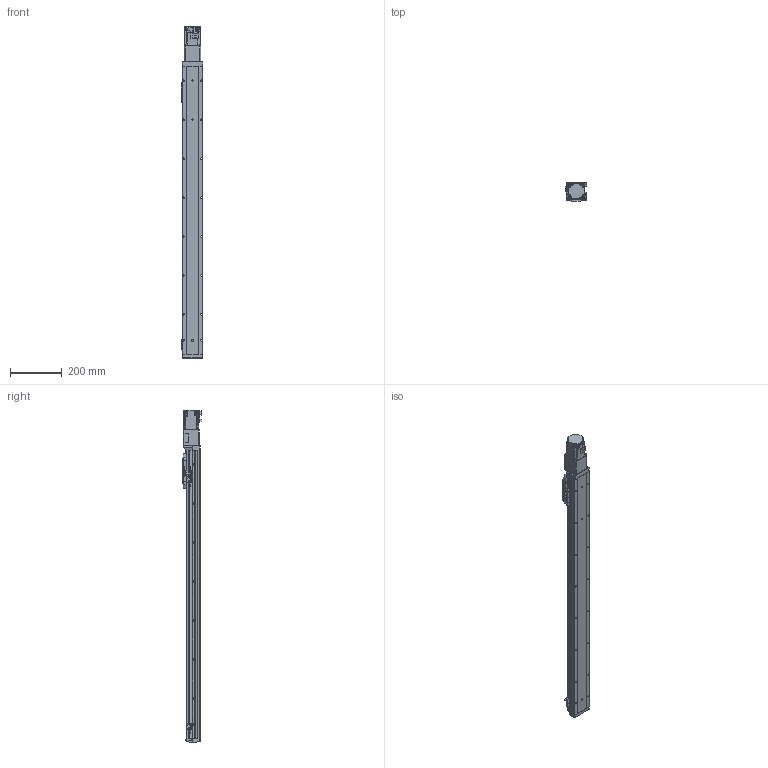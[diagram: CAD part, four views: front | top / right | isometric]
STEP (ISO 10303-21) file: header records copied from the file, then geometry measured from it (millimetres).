
FILE_DESCRIPTION (( 'STEP AP214' ), '1' );
FILE_NAME ('GSH8-950-BC-M20-1.step', '2025-01-07T06:04:42', ( '' ), ( '' ), 'SwSTEP 2.0', 'SolidWorks 2012', '' );
FILE_SCHEMA (( 'AUTOMOTIVE_DESIGN' ));
Length unit declared in the file: millimetre
Products named in the file (4): HG-KR23_200W_Motor; GSH8-GY-004; GSH8-BC-011-950-M20; GSH8-950-BC-M20-1
Assembly tree (3 placements, depth 2):
  GSH8-950-BC-M20-1
    GSH8-BC-011-950-M20
    GSH8-GY-004
    HG-KR23_200W_Motor
Bounding box: 84 x 71.3 x 1277.6 mm (x, y, z)
Volume: 2440034.9 mm3; surface area: 674132.6 mm2
Topology: 3 solids, 7 shells, 1165 faces, 3098 edges, 1998 vertices
Faces by surface type: plane 664, cylinder 409, torus 38, cone 26, bspline 24, sphere 4
Entity records: 46788 total; most frequent: CARTESIAN_POINT 11465, DIRECTION 6278, ORIENTED_EDGE 6180, EDGE_CURVE 3090, AXIS2_PLACEMENT_3D 2111, VECTOR 2056, LINE 2056, VERTEX_POINT 1994
